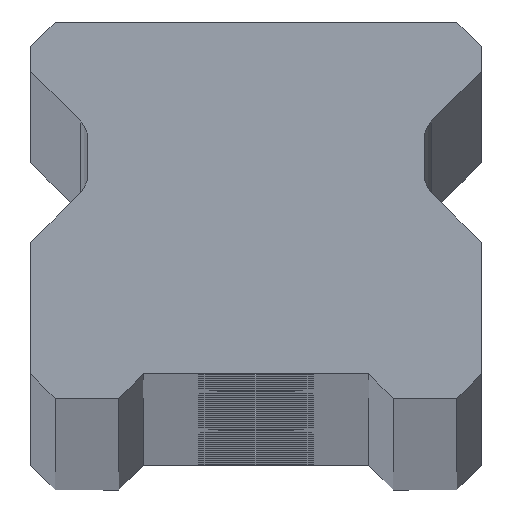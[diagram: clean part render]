
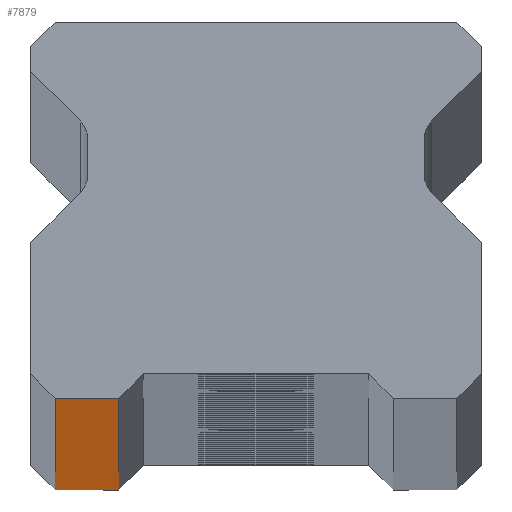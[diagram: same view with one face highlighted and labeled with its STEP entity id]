
A CAD part, top view. The second image highlights one B-rep face of the part: STEP entity #7879.
In plain terms, the highlighted planar face has unit normal (0, -1, 0).
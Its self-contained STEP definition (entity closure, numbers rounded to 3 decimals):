
#74 = CARTESIAN_POINT ( 'NONE',  ( -7., 0., -1340. ) ) ;
#76 = VECTOR ( 'NONE', #6963, 1000. ) ;
#150 = CARTESIAN_POINT ( 'NONE',  ( 11.5, 0., 1340. ) ) ;
#232 = CARTESIAN_POINT ( 'NONE',  ( -7., 0., -1340. ) ) ;
#1021 = AXIS2_PLACEMENT_3D ( 'NONE', #4714, #3854, #3979 ) ;
#1450 = CARTESIAN_POINT ( 'NONE',  ( 11.5, 0., -1340. ) ) ;
#1983 = LINE ( 'NONE', #74, #9078 ) ;
#2076 = ORIENTED_EDGE ( 'NONE', *, *, #3294, .F. ) ;
#2324 = EDGE_CURVE ( 'NONE', #5242, #3042, #7379, .T. ) ;
#2799 = LINE ( 'NONE', #6428, #7245 ) ;
#3042 = VERTEX_POINT ( 'NONE', #232 ) ;
#3257 = PLANE ( 'NONE',  #1021 ) ;
#3294 = EDGE_CURVE ( 'NONE', #6077, #7701, #5031, .T. ) ;
#3410 = EDGE_CURVE ( 'NONE', #6077, #5242, #2799, .T. ) ;
#3854 = DIRECTION ( 'NONE',  ( 0., 1., 0. ) ) ;
#3979 = DIRECTION ( 'NONE',  ( -1., 0., 0. ) ) ;
#4153 = CARTESIAN_POINT ( 'NONE',  ( -7., 0., 1340. ) ) ;
#4319 = FACE_OUTER_BOUND ( 'NONE', #7484, .T. ) ;
#4355 = DIRECTION ( 'NONE',  ( 0., 0., 1. ) ) ;
#4714 = CARTESIAN_POINT ( 'NONE',  ( 11.5, 0., 1340. ) ) ;
#4766 = CARTESIAN_POINT ( 'NONE',  ( -10.25, 0., -1340. ) ) ;
#4797 = CARTESIAN_POINT ( 'NONE',  ( -10.25, 0., 1340. ) ) ;
#5001 = DIRECTION ( 'NONE',  ( 0., 0., -1. ) ) ;
#5031 = LINE ( 'NONE', #150, #7472 ) ;
#5242 = VERTEX_POINT ( 'NONE', #4766 ) ;
#5989 = ORIENTED_EDGE ( 'NONE', *, *, #9013, .T. ) ;
#6077 = VERTEX_POINT ( 'NONE', #4797 ) ;
#6103 = ORIENTED_EDGE ( 'NONE', *, *, #3410, .T. ) ;
#6428 = CARTESIAN_POINT ( 'NONE',  ( -10.25, 0., 1340. ) ) ;
#6490 = DIRECTION ( 'NONE',  ( 1., 0., 0. ) ) ;
#6963 = DIRECTION ( 'NONE',  ( 1., 0., 0. ) ) ;
#7245 = VECTOR ( 'NONE', #5001, 1000. ) ;
#7379 = LINE ( 'NONE', #1450, #76 ) ;
#7472 = VECTOR ( 'NONE', #6490, 1000. ) ;
#7484 = EDGE_LOOP ( 'NONE', ( #8798, #5989, #2076, #6103 ) ) ;
#7701 = VERTEX_POINT ( 'NONE', #4153 ) ;
#7879 = ADVANCED_FACE ( 'NONE', ( #4319 ), #3257, .F. ) ;
#8798 = ORIENTED_EDGE ( 'NONE', *, *, #2324, .T. ) ;
#9013 = EDGE_CURVE ( 'NONE', #3042, #7701, #1983, .T. ) ;
#9078 = VECTOR ( 'NONE', #4355, 1000. ) ;
